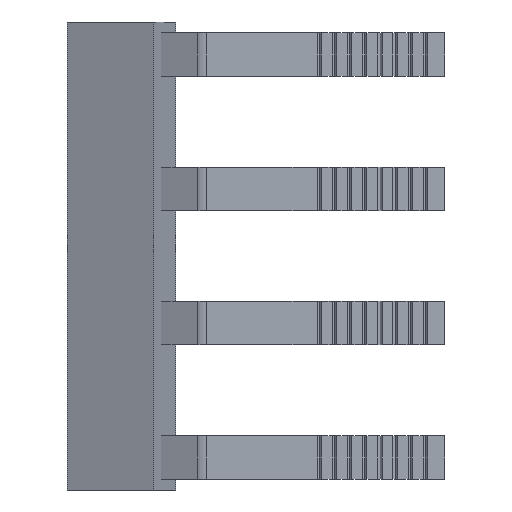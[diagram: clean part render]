
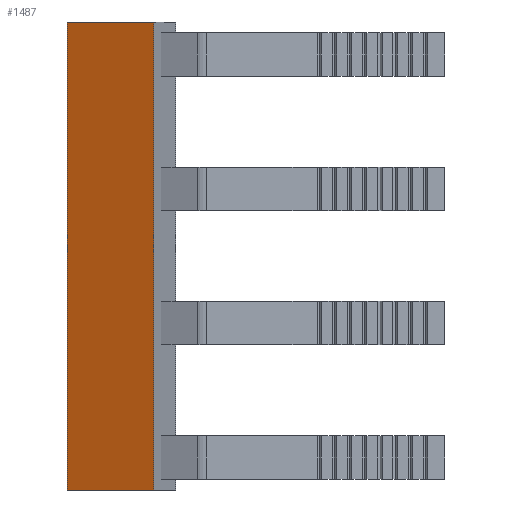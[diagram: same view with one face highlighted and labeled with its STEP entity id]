
A CAD part, left-side view. The second image highlights one B-rep face of the part: STEP entity #1487.
In plain terms, the highlighted planar face has unit normal (-0.906, 0.423, 0).
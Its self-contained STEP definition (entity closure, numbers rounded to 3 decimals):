
#1487 = ADVANCED_FACE('',(#1488),#1502,.T.);
#1488 = FACE_BOUND('',#1489,.T.);
#1489 = EDGE_LOOP('',(#1490,#1513,#1529,#1545));
#1490 = ORIENTED_EDGE('',*,*,#1491,.T.);
#1491 = EDGE_CURVE('',#1492,#1494,#1496,.T.);
#1492 = VERTEX_POINT('',#1493);
#1493 = CARTESIAN_POINT('',(5.647,18.704,8.7));
#1494 = VERTEX_POINT('',#1495);
#1495 = CARTESIAN_POINT('',(5.647,18.704,-12.9));
#1496 = SURFACE_CURVE('',#1497,(#1501),.PCURVE_S1.);
#1497 = LINE('',#1498,#1499);
#1498 = CARTESIAN_POINT('',(5.647,18.704,9.));
#1499 = VECTOR('',#1500,1.);
#1500 = DIRECTION('',(0.,0.,-1.));
#1501 = PCURVE('',#1502,#1507);
#1502 = PLANE('',#1503);
#1503 = AXIS2_PLACEMENT_3D('',#1504,#1505,#1506);
#1504 = CARTESIAN_POINT('',(-2.526,1.178,0.));
#1505 = DIRECTION('',(-0.906,0.423,0.));
#1506 = DIRECTION('',(0.423,0.906,0.));
#1507 = DEFINITIONAL_REPRESENTATION('',(#1508),#1512);
#1508 = LINE('',#1509,#1510);
#1509 = CARTESIAN_POINT('',(19.338,-9.));
#1510 = VECTOR('',#1511,1.);
#1511 = DIRECTION('',(0.,1.));
#1512 = ( GEOMETRIC_REPRESENTATION_CONTEXT(2) 
PARAMETRIC_REPRESENTATION_CONTEXT() REPRESENTATION_CONTEXT('2D SPACE',''
  ) );
#1513 = ORIENTED_EDGE('',*,*,#1514,.F.);
#1514 = EDGE_CURVE('',#1515,#1494,#1517,.T.);
#1515 = VERTEX_POINT('',#1516);
#1516 = CARTESIAN_POINT('',(3.787,14.716,-12.9));
#1517 = SURFACE_CURVE('',#1518,(#1522),.PCURVE_S1.);
#1518 = LINE('',#1519,#1520);
#1519 = CARTESIAN_POINT('',(-2.526,1.178,-12.9));
#1520 = VECTOR('',#1521,1.);
#1521 = DIRECTION('',(0.423,0.906,0.));
#1522 = PCURVE('',#1502,#1523);
#1523 = DEFINITIONAL_REPRESENTATION('',(#1524),#1528);
#1524 = LINE('',#1525,#1526);
#1525 = CARTESIAN_POINT('',(0.,12.9));
#1526 = VECTOR('',#1527,1.);
#1527 = DIRECTION('',(1.,0.));
#1528 = ( GEOMETRIC_REPRESENTATION_CONTEXT(2) 
PARAMETRIC_REPRESENTATION_CONTEXT() REPRESENTATION_CONTEXT('2D SPACE',''
  ) );
#1529 = ORIENTED_EDGE('',*,*,#1530,.T.);
#1530 = EDGE_CURVE('',#1515,#1531,#1533,.T.);
#1531 = VERTEX_POINT('',#1532);
#1532 = CARTESIAN_POINT('',(3.787,14.716,8.7));
#1533 = SURFACE_CURVE('',#1534,(#1538),.PCURVE_S1.);
#1534 = LINE('',#1535,#1536);
#1535 = CARTESIAN_POINT('',(3.787,14.716,-0.8));
#1536 = VECTOR('',#1537,1.);
#1537 = DIRECTION('',(0.,0.,1.));
#1538 = PCURVE('',#1502,#1539);
#1539 = DEFINITIONAL_REPRESENTATION('',(#1540),#1544);
#1540 = LINE('',#1541,#1542);
#1541 = CARTESIAN_POINT('',(14.938,0.8));
#1542 = VECTOR('',#1543,1.);
#1543 = DIRECTION('',(0.,-1.));
#1544 = ( GEOMETRIC_REPRESENTATION_CONTEXT(2) 
PARAMETRIC_REPRESENTATION_CONTEXT() REPRESENTATION_CONTEXT('2D SPACE',''
  ) );
#1545 = ORIENTED_EDGE('',*,*,#1546,.T.);
#1546 = EDGE_CURVE('',#1531,#1492,#1547,.T.);
#1547 = SURFACE_CURVE('',#1548,(#1552),.PCURVE_S1.);
#1548 = LINE('',#1549,#1550);
#1549 = CARTESIAN_POINT('',(-2.526,1.178,8.7));
#1550 = VECTOR('',#1551,1.);
#1551 = DIRECTION('',(0.423,0.906,0.));
#1552 = PCURVE('',#1502,#1553);
#1553 = DEFINITIONAL_REPRESENTATION('',(#1554),#1558);
#1554 = LINE('',#1555,#1556);
#1555 = CARTESIAN_POINT('',(0.,-8.7));
#1556 = VECTOR('',#1557,1.);
#1557 = DIRECTION('',(1.,0.));
#1558 = ( GEOMETRIC_REPRESENTATION_CONTEXT(2) 
PARAMETRIC_REPRESENTATION_CONTEXT() REPRESENTATION_CONTEXT('2D SPACE',''
  ) );
